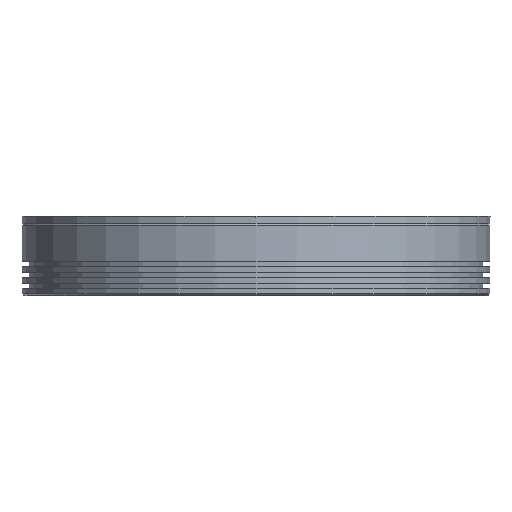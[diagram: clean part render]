
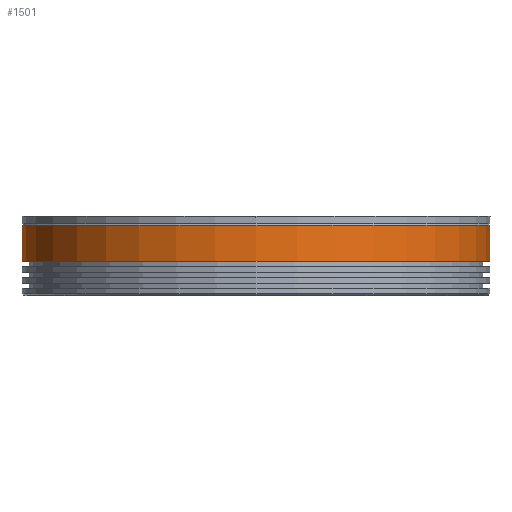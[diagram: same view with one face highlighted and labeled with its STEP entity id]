
A CAD part, front view. The second image highlights one B-rep face of the part: STEP entity #1501.
In plain terms, the highlighted cylindrical face has radius 65 mm (diameter 130 mm), a partial arc.
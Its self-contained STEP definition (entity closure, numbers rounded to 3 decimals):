
#465=CARTESIAN_POINT('',(0.,0.,9.5));
#466=DIRECTION('',(0.,0.,1.));
#467=DIRECTION('',(-1.,0.,0.));
#468=AXIS2_PLACEMENT_3D('',#465,#466,#467);
#470=DIRECTION('',(0.,0.,1.));
#471=VECTOR('',#470,10.);
#472=CARTESIAN_POINT('',(-65.,0.,9.5));
#473=LINE('',#472,#471);
#474=CARTESIAN_POINT('',(0.,0.,19.5));
#475=DIRECTION('',(0.,0.,1.));
#476=DIRECTION('',(-1.,0.,0.));
#477=AXIS2_PLACEMENT_3D('',#474,#475,#476);
#554=DIRECTION('',(0.,0.,1.));
#555=VECTOR('',#554,10.);
#556=CARTESIAN_POINT('',(65.,0.,9.5));
#557=LINE('',#556,#555);
#724=CARTESIAN_POINT('',(-65.,0.,19.5));
#725=CARTESIAN_POINT('',(65.,0.,19.5));
#726=VERTEX_POINT('',#724);
#727=VERTEX_POINT('',#725);
#824=CARTESIAN_POINT('',(65.,0.,9.5));
#825=CARTESIAN_POINT('',(-65.,0.,9.5));
#826=VERTEX_POINT('',#824);
#827=VERTEX_POINT('',#825);
#1487=CARTESIAN_POINT('',(0.,0.,0.));
#1488=DIRECTION('',(0.,0.,1.));
#1489=DIRECTION('',(1.,0.,0.));
#1490=AXIS2_PLACEMENT_3D('',#1487,#1488,#1489);
#1491=CYLINDRICAL_SURFACE('',#1490,65.);
#1493=ORIENTED_EDGE('',*,*,#1492,.F.);
#1495=ORIENTED_EDGE('',*,*,#1494,.T.);
#1496=ORIENTED_EDGE('',*,*,#1433,.T.);
#1498=ORIENTED_EDGE('',*,*,#1497,.F.);
#1499=EDGE_LOOP('',(#1493,#1495,#1496,#1498));
#1500=FACE_OUTER_BOUND('',#1499,.F.);
#469=CIRCLE('',#468,65.);
#478=CIRCLE('',#477,65.);
#1433=EDGE_CURVE('',#726,#727,#478,.T.);
#1492=EDGE_CURVE('',#827,#826,#469,.T.);
#1494=EDGE_CURVE('',#827,#726,#473,.T.);
#1497=EDGE_CURVE('',#826,#727,#557,.T.);
#1501=ADVANCED_FACE('',(#1500),#1491,.T.);
